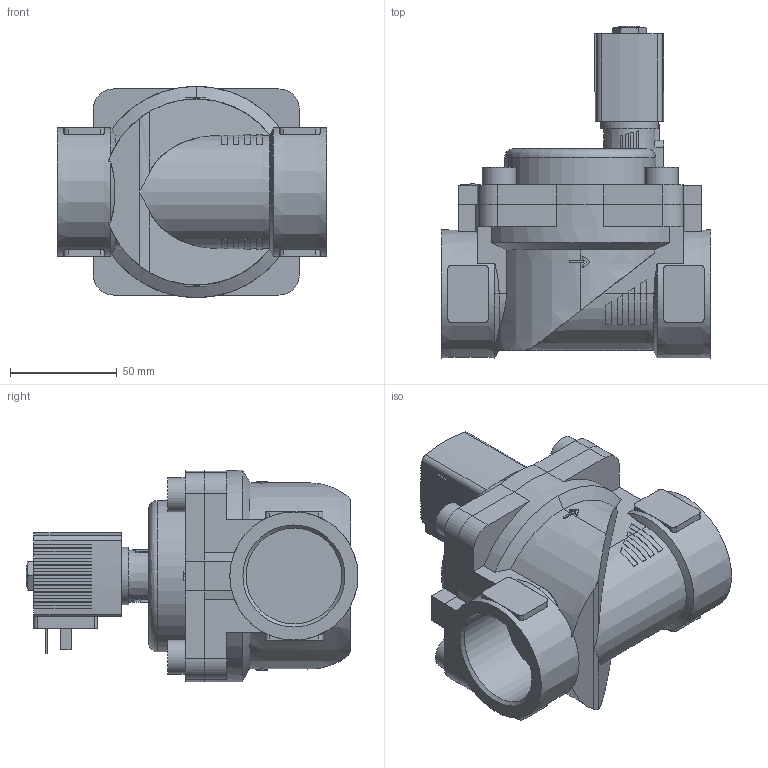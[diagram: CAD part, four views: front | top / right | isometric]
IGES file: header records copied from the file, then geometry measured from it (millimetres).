
Start section: Data from Parasolid IGES Translator 26.0.171, Copyright(c) 2006 Siemens PLM Software. All Rights Reserved.
Global section: file name: 6281-253821-2_2-Way_Solenoid_Valve__Servo-assisted__General_Purpose.igs; native system: By Siemens PLM Incorporated; preprocessor: XPlus GENERIC/IGES 26.0.171; author: Noname; organization: Noname; date: 20240702.122528; units: millimetre
Bounding box: 126 x 155.5 x 99 mm (x, y, z)
Surface area: 93932.5 mm2 (no closed solid volume)
Topology: 0 solids, 0 shells, 562 faces, 3138 edges, 3119 vertices
Faces by surface type: extrusion 434, revolution 128
